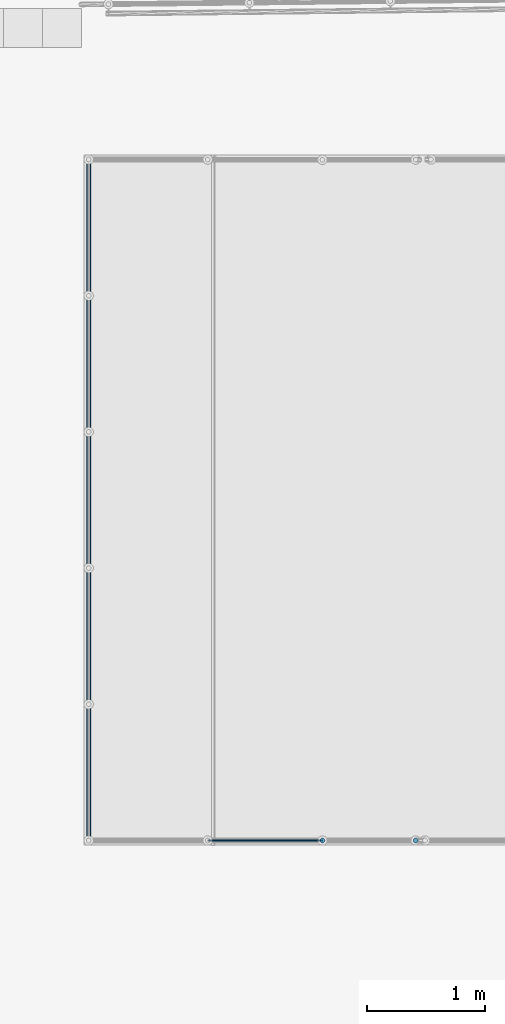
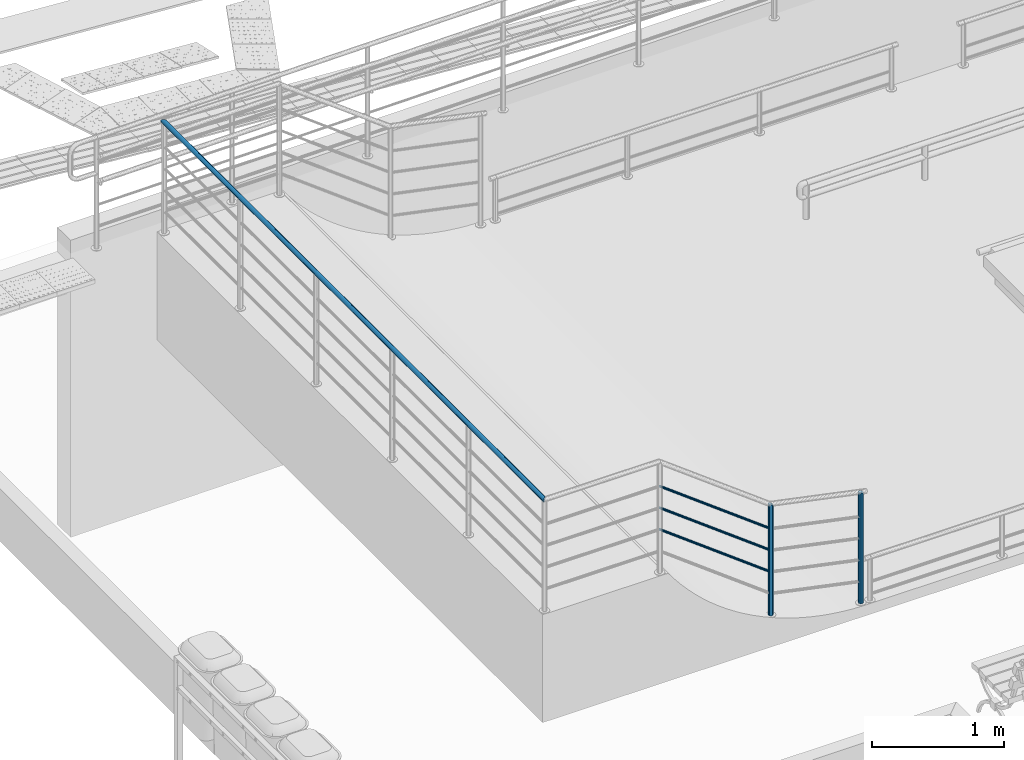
# One storey, part 29 of 237: 6 building element parts, 1 element without a shape of its own.
"""IFC2X3 building model written with IfcOpenShell, lengths in millimetres."""

from ifc_helpers import new_model, entity, si_unit, converted_unit, derived_unit, money_unit, direction, frame, origin_with_axes, place, context, subcontext, project, spatial, faceted_brep, material, type_object, element, aggregate, save


model = new_model("IFC2X3")

# Units and contexts
model_context = context("Model", 3, precision=0.01, world=origin_with_axes(), true_north=direction((0.0, 1.0)))
body_context = subcontext(model_context, "Body", "Model", "MODEL_VIEW")
ifc_project = project(units=[si_unit("LENGTHUNIT", "METRE", prefix="MILLI"), si_unit("AREAUNIT", "SQUARE_METRE"), si_unit("VOLUMEUNIT", "CUBIC_METRE"), converted_unit("PLANEANGLEUNIT", "DEGREE", entity("IfcPlaneAngleMeasure", 0.0174532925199), si_unit("PLANEANGLEUNIT", "RADIAN"), dimensions=[0, 0, 0, 0, 0, 0, 0]), money_unit("USD"), converted_unit("TIMEUNIT", "Year", entity("IfcTimeMeasure", 31556926.0), si_unit("TIMEUNIT", "SECOND"), dimensions=[0, 0, 1, 0, 0, 0, 0]), si_unit("MASSUNIT", "GRAM", prefix="KILO"), si_unit("THERMODYNAMICTEMPERATUREUNIT", "DEGREE_CELSIUS"), si_unit("LUMINOUSINTENSITYUNIT", "LUMEN"), si_unit("ENERGYUNIT", "JOULE", prefix="MEGA"), derived_unit("THERMALCONDUCTANCEUNIT", [(si_unit("POWERUNIT", "WATT"), 1), (si_unit("LENGTHUNIT", "METRE"), -1), (si_unit("THERMODYNAMICTEMPERATUREUNIT", "KELVIN"), -1)]), derived_unit("SPECIFICHEATCAPACITYUNIT", [(si_unit("ENERGYUNIT", "JOULE"), 1), (si_unit("MASSUNIT", "GRAM", prefix="KILO"), -1), (si_unit("THERMODYNAMICTEMPERATUREUNIT", "KELVIN"), -1)]), derived_unit("MASSDENSITYUNIT", [(si_unit("MASSUNIT", "GRAM", prefix="KILO"), 1), (si_unit("VOLUMEUNIT", "CUBIC_METRE"), -1)])], contexts=[model_context])

# Site, building, storey
site_placement = place(None, origin_with_axes())
site = spatial("IfcSite", under=ifc_project, at=site_placement, Name="Local", CompositionType="ELEMENT")
building_placement = place(site_placement, origin_with_axes())
building = spatial("IfcBuilding", under=site, at=building_placement, Name="Construção", CompositionType="ELEMENT")
storey_placement = place(building_placement, origin_with_axes())
storey = spatial("IfcBuildingStorey", under=building, at=storey_placement, Name="Pavimento Térreo", CompositionType="ELEMENT", Elevation=0.0)

# Railing, building element parts
railing_type = type_object("IfcRailingType", Name="Tipo de Guarda-Corpo", PredefinedType="NOTDEFINED")
railing_placement = place(storey_placement, frame((53912.4440926, 33356.4497128, -1263.04952679), z_axis=(0.0, 0.0, 1.0), x_axis=(1.0, 0.0, 0.0)))
railing = element("IfcRailing", 1, at=railing_placement, inside=storey, type_object=railing_type, Name="Guarda-Corpo - 001", PredefinedType="NOTDEFINED")
ifc_material = material(Name="Aço - Inoxidável")
building_element_part_1_placement = place(railing_placement, origin_with_axes())
building_element_part_1 = element("IfcBuildingElementPart", 2, at=building_element_part_1_placement, material=ifc_material, Name="Aço - Inoxidável", context=body_context, shape_type="Brep", body=[
    faceted_brep([(-833.144401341, -5291.20961394, 177.183005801), (-829.671437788, -5291.51345888, 177.183005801), (-829.671437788, -5291.51345888, 1202.1830058), (-833.144401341, -5291.20961394, 1203.75733098), (-826.198474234, -5291.20961394, 177.183005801), (-836.511840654, -5290.30731129, 177.183005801), (-839.671437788, -5288.83396695, 177.183005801), (-842.527189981, -5286.83434774, 177.183005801), (-844.99232665, -5284.36921107, 177.183005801), (-846.991945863, -5281.51345888, 177.183005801), (-848.465290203, -5278.35386174, 177.183005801), (-849.367592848, -5274.98642243, 177.183005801), (-849.671437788, -5271.51345888, 177.183005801), (-849.367592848, -5268.04049532, 177.183005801), (-848.465290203, -5264.67305601, 177.183005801), (-846.991945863, -5261.51345888, 177.183005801), (-844.99232665, -5258.65770668, 177.183005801), (-842.527189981, -5256.19257001, 177.183005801), (-839.671437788, -5254.1929508, 177.183005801), (-836.511840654, -5252.71960646, 177.183005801), (-833.144401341, -5251.81730382, 177.183005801), (-829.671437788, -5251.51345888, 177.183005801), (-826.198474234, -5251.81730382, 177.183005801), (-822.831034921, -5252.71960646, 177.183005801), (-819.671437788, -5254.1929508, 177.183005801), (-816.815685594, -5256.19257001, 177.183005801), (-814.350548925, -5258.65770668, 177.183005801), (-812.350929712, -5261.51345888, 177.183005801), (-810.877585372, -5264.67305601, 177.183005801), (-809.975282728, -5268.04049532, 177.183005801), (-809.671437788, -5271.51345888, 177.183005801), (-809.975282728, -5274.98642243, 177.183005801), (-810.877585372, -5278.35386174, 177.183005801), (-812.350929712, -5281.51345888, 177.183005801), (-814.350548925, -5284.36921107, 177.183005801), (-816.815685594, -5286.83434774, 177.183005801), (-819.671437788, -5288.83396695, 177.183005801), (-822.831034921, -5290.30731129, 177.183005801), (-826.198474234, -5291.20961394, 1200.60868062), (-849.367592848, -5268.04049532, 1211.11144758), (-849.671437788, -5271.51345888, 1211.24918319), (-849.367592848, -5274.98642243, 1211.11144758), (-848.465290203, -5278.35386174, 1210.70242579), (-846.991945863, -5281.51345888, 1210.03454573), (-844.99232665, -5284.36921107, 1209.12810061), (-842.527189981, -5286.83434774, 1208.01063229), (-839.671437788, -5288.83396695, 1206.71609449), (-836.511840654, -5290.30731129, 1205.28382109), (-822.831034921, -5290.30731129, 1199.08219051), (-819.671437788, -5288.83396695, 1197.64991711), (-816.815685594, -5286.83434774, 1196.35537931), (-814.350548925, -5284.36921107, 1195.23791099), (-812.350929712, -5281.51345888, 1194.33146587), (-810.877585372, -5278.35386174, 1193.66358581), (-809.975282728, -5274.98642243, 1193.25456402), (-809.671437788, -5271.51345888, 1193.11682842), (-809.975282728, -5268.04049532, 1193.25456402), (-810.877585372, -5264.67305601, 1193.66358581), (-812.350929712, -5261.51345888, 1194.33146587), (-814.350548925, -5258.65770668, 1195.23791099), (-816.815685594, -5256.19257001, 1196.35537931), (-819.671437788, -5254.1929508, 1197.64991711), (-822.831034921, -5252.71960646, 1199.08219051), (-826.198474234, -5251.81730382, 1200.60868062), (-829.671437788, -5251.51345888, 1202.1830058), (-833.144401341, -5251.81730382, 1203.75733098), (-836.511840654, -5252.71960646, 1205.28382109), (-839.671437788, -5254.1929508, 1206.71609449), (-842.527189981, -5256.19257001, 1208.01063229), (-844.99232665, -5258.65770668, 1209.12810061), (-846.991945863, -5261.51345888, 1210.03454573), (-848.465290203, -5264.67305601, 1210.70242579)], [[[0, 1, 2, 3]], [[4, 1, 0, 5, 6, 7, 8, 9, 10, 11, 12, 13, 14, 15, 16, 17, 18, 19, 20, 21, 22, 23, 24, 25, 26, 27, 28, 29, 30, 31, 32, 33, 34, 35, 36, 37]], [[1, 4, 38, 2]], [[39, 40, 41, 42, 43, 44, 45, 46, 47, 3, 2, 38, 48, 49, 50, 51, 52, 53, 54, 55, 56, 57, 58, 59, 60, 61, 62, 63, 64, 65, 66, 67, 68, 69, 70, 71]], [[5, 0, 3, 47]], [[6, 5, 47, 46]], [[7, 6, 46, 45]], [[8, 7, 45, 44]], [[9, 8, 44, 43]], [[10, 9, 43, 42]], [[11, 10, 42, 41]], [[12, 11, 41, 40]], [[13, 12, 40, 39]], [[14, 13, 39, 71]], [[15, 14, 71, 70]], [[16, 15, 70, 69]], [[17, 16, 69, 68]], [[18, 17, 68, 67]], [[19, 18, 67, 66]], [[20, 19, 66, 65]], [[21, 20, 65, 64]], [[22, 21, 64, 63]], [[23, 22, 63, 62]], [[24, 23, 62, 61]], [[25, 24, 61, 60]], [[26, 25, 60, 59]], [[27, 26, 59, 58]], [[28, 27, 58, 57]], [[29, 28, 57, 56]], [[30, 29, 56, 55]], [[31, 30, 55, 54]], [[32, 31, 54, 53]], [[33, 32, 53, 52]], [[34, 33, 52, 51]], [[35, 34, 51, 50]], [[36, 35, 50, 49]], [[37, 36, 49, 48]], [[4, 37, 48, 38]]]),
])
building_element_part_2_placement = place(railing_placement, origin_with_axes())
building_element_part_2 = element("IfcBuildingElementPart", 3, at=building_element_part_2_placement, material=ifc_material, Name="Aço - Inoxidável", context=body_context, shape_type="Brep", body=[
    faceted_brep([(-43.4729635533, -5291.20961394, 13.301262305), (-40.0, -5291.51345888, 13.301262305), (-40.0, -5291.51345888, 1038.3012623), (-43.4729635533, -5291.20961394, 1039.02201184), (-36.5270364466, -5291.20961394, 13.301262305), (-46.8404028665, -5290.30731129, 13.301262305), (-50.0, -5288.83396695, 13.301262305), (-52.8557521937, -5286.83434774, 13.301262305), (-55.3208888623, -5284.36921107, 13.301262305), (-57.3205080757, -5281.51345888, 13.301262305), (-58.7938524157, -5278.35386174, 13.301262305), (-59.6961550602, -5274.98642243, 13.301262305), (-60.0, -5271.51345888, 13.301262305), (-59.6961550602, -5268.04049532, 13.301262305), (-58.7938524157, -5264.67305601, 13.301262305), (-57.3205080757, -5261.51345888, 13.301262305), (-55.3208888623, -5258.65770668, 13.301262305), (-52.8557521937, -5256.19257001, 13.301262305), (-50.0, -5254.1929508, 13.301262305), (-46.8404028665, -5252.71960646, 13.301262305), (-43.4729635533, -5251.81730382, 13.301262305), (-40.0, -5251.51345888, 13.301262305), (-36.5270364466, -5251.81730382, 13.301262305), (-33.1595971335, -5252.71960646, 13.301262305), (-30.0, -5254.1929508, 13.301262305), (-27.1442478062, -5256.19257001, 13.301262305), (-24.6791111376, -5258.65770668, 13.301262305), (-22.6794919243, -5261.51345888, 13.301262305), (-21.2061475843, -5264.67305601, 13.301262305), (-20.3038449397, -5268.04049532, 13.301262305), (-20.0, -5271.51345888, 13.301262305), (-20.3038449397, -5274.98642243, 13.301262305), (-21.2061475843, -5278.35386174, 13.301262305), (-22.6794919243, -5281.51345888, 13.301262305), (-24.6791111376, -5284.36921107, 13.301262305), (-27.1442478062, -5286.83434774, 13.301262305), (-30.0, -5288.83396695, 13.301262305), (-33.1595971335, -5290.30731129, 13.301262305), (-36.5270364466, -5291.20961394, 1037.58051277), (-59.6961550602, -5268.04049532, 1042.38883604), (-60.0, -5271.51345888, 1042.45189346), (-59.6961550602, -5274.98642243, 1042.38883604), (-58.7938524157, -5278.35386174, 1042.20157977), (-57.3205080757, -5281.51345888, 1041.89581432), (-55.3208888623, -5284.36921107, 1041.48083023), (-52.8557521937, -5286.83434774, 1040.96923658), (-50.0, -5288.83396695, 1040.37657788), (-46.8404028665, -5290.30731129, 1039.72086177), (-33.1595971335, -5290.30731129, 1036.88166284), (-30.0, -5288.83396695, 1036.22594673), (-27.1442478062, -5286.83434774, 1035.63328803), (-24.6791111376, -5284.36921107, 1035.12169438), (-22.6794919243, -5281.51345888, 1034.70671029), (-21.2061475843, -5278.35386174, 1034.40094484), (-20.3038449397, -5274.98642243, 1034.21368857), (-20.0, -5271.51345888, 1034.15063115), (-20.3038449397, -5268.04049532, 1034.21368857), (-21.2061475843, -5264.67305601, 1034.40094484), (-22.6794919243, -5261.51345888, 1034.70671029), (-24.6791111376, -5258.65770668, 1035.12169438), (-27.1442478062, -5256.19257001, 1035.63328803), (-30.0, -5254.1929508, 1036.22594673), (-33.1595971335, -5252.71960646, 1036.88166284), (-36.5270364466, -5251.81730382, 1037.58051277), (-40.0, -5251.51345888, 1038.3012623), (-43.4729635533, -5251.81730382, 1039.02201184), (-46.8404028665, -5252.71960646, 1039.72086177), (-50.0, -5254.1929508, 1040.37657788), (-52.8557521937, -5256.19257001, 1040.96923658), (-55.3208888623, -5258.65770668, 1041.48083023), (-57.3205080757, -5261.51345888, 1041.89581432), (-58.7938524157, -5264.67305601, 1042.20157977)], [[[0, 1, 2, 3]], [[4, 1, 0, 5, 6, 7, 8, 9, 10, 11, 12, 13, 14, 15, 16, 17, 18, 19, 20, 21, 22, 23, 24, 25, 26, 27, 28, 29, 30, 31, 32, 33, 34, 35, 36, 37]], [[1, 4, 38, 2]], [[39, 40, 41, 42, 43, 44, 45, 46, 47, 3, 2, 38, 48, 49, 50, 51, 52, 53, 54, 55, 56, 57, 58, 59, 60, 61, 62, 63, 64, 65, 66, 67, 68, 69, 70, 71]], [[5, 0, 3, 47]], [[6, 5, 47, 46]], [[7, 6, 46, 45]], [[8, 7, 45, 44]], [[9, 8, 44, 43]], [[10, 9, 43, 42]], [[11, 10, 42, 41]], [[12, 11, 41, 40]], [[13, 12, 40, 39]], [[14, 13, 39, 71]], [[15, 14, 71, 70]], [[16, 15, 70, 69]], [[17, 16, 69, 68]], [[18, 17, 68, 67]], [[19, 18, 67, 66]], [[20, 19, 66, 65]], [[21, 20, 65, 64]], [[22, 21, 64, 63]], [[23, 22, 63, 62]], [[24, 23, 62, 61]], [[25, 24, 61, 60]], [[26, 25, 60, 59]], [[27, 26, 59, 58]], [[28, 27, 58, 57]], [[29, 28, 57, 56]], [[30, 29, 56, 55]], [[31, 30, 55, 54]], [[32, 31, 54, 53]], [[33, 32, 53, 52]], [[34, 33, 52, 51]], [[35, 34, 51, 50]], [[36, 35, 50, 49]], [[37, 36, 49, 48]], [[4, 37, 48, 38]]]),
])
building_element_part_3_placement = place(railing_placement, origin_with_axes())
building_element_part_3 = element("IfcBuildingElementPart", 4, at=building_element_part_3_placement, material=ifc_material, Name="Aço - Inoxidável", context=body_context, shape_type="Brep", body=[
    faceted_brep([(-2790.0, 478.44280885, 1935.94133024), (-2790.30384494, 478.746875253, 1939.41429379), (-2790.30384494, -5251.81730382, 1939.41429379), (-2790.0, -5251.51345888, 1935.94133024), (-2790.30384494, 478.746875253, 1932.46836668), (-2791.20614758, 479.64983556, 1929.10092737), (-2792.67949192, 481.124253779, 1925.94133024), (-2794.67911114, 483.125330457, 1923.08557804), (-2797.14424781, 485.592263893, 1920.62044137), (-2800.0, 488.450097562, 1918.62082216), (-2803.15959713, 491.611997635, 1917.14747782), (-2806.52703645, 494.981891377, 1916.24517518), (-2810.0, 498.457386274, 1915.94133024), (-2813.47296355, 501.932881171, 1916.24517518), (-2816.84040287, 505.302774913, 1917.14747782), (-2820.0, 508.464674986, 1918.62082216), (-2822.85575219, 511.322508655, 1920.62044137), (-2825.32088886, 513.789442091, 1923.08557804), (-2827.32050808, 515.79051877, 1925.94133024), (-2828.79385242, 517.264936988, 1929.10092737), (-2829.69615506, 518.167897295, 1932.46836668), (-2830.0, 518.471963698, 1935.94133024), (-2829.69615506, 518.167897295, 1939.41429379), (-2828.79385242, 517.264936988, 1942.7817331), (-2827.32050808, 515.79051877, 1945.94133024), (-2825.32088886, 513.789442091, 1948.79708243), (-2822.85575219, 511.322508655, 1951.2622191), (-2820.0, 508.464674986, 1953.26183831), (-2816.84040287, 505.302774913, 1954.73518265), (-2813.47296355, 501.932881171, 1955.6374853), (-2810.0, 498.457386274, 1955.94133024), (-2806.52703645, 494.981891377, 1955.6374853), (-2803.15959713, 491.611997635, 1954.73518265), (-2800.0, 488.450097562, 1953.26183831), (-2797.14424781, 485.592263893, 1951.2622191), (-2794.67911114, 483.125330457, 1948.79708243), (-2792.67949192, 481.124253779, 1945.94133024), (-2791.20614758, 479.64983556, 1942.7817331), (-2791.20614758, -5252.71960646, 1942.7817331), (-2792.67949192, -5254.1929508, 1945.94133024), (-2794.67911114, -5256.19257001, 1948.79708243), (-2797.14424781, -5258.65770668, 1951.2622191), (-2800.0, -5261.51345888, 1953.26183831), (-2803.15959713, -5264.67305601, 1954.73518265), (-2806.52703645, -5268.04049532, 1955.6374853), (-2810.0, -5271.51345888, 1955.94133024), (-2813.47296355, -5274.98642243, 1955.6374853), (-2816.84040287, -5278.35386174, 1954.73518265), (-2820.0, -5281.51345888, 1953.26183831), (-2822.85575219, -5284.36921107, 1951.2622191), (-2825.32088886, -5286.83434774, 1948.79708243), (-2827.32050808, -5288.83396695, 1945.94133024), (-2828.79385242, -5290.30731129, 1942.7817331), (-2829.69615506, -5291.20961394, 1939.41429379), (-2830.0, -5291.51345888, 1935.94133024), (-2829.69615506, -5291.20961394, 1932.46836668), (-2828.79385242, -5290.30731129, 1929.10092737), (-2827.32050808, -5288.83396695, 1925.94133024), (-2825.32088886, -5286.83434774, 1923.08557804), (-2822.85575219, -5284.36921107, 1920.62044137), (-2820.0, -5281.51345888, 1918.62082216), (-2816.84040287, -5278.35386174, 1917.14747782), (-2813.47296355, -5274.98642243, 1916.24517518), (-2810.0, -5271.51345888, 1915.94133024), (-2806.52703645, -5268.04049532, 1916.24517518), (-2803.15959713, -5264.67305601, 1917.14747782), (-2800.0, -5261.51345888, 1918.62082216), (-2797.14424781, -5258.65770668, 1920.62044137), (-2794.67911114, -5256.19257001, 1923.08557804), (-2792.67949192, -5254.1929508, 1925.94133024), (-2791.20614758, -5252.71960646, 1929.10092737), (-2790.30384494, -5251.81730382, 1932.46836668)], [[[0, 1, 2, 3]], [[0, 4, 5, 6, 7, 8, 9, 10, 11, 12, 13, 14, 15, 16, 17, 18, 19, 20, 21, 22, 23, 24, 25, 26, 27, 28, 29, 30, 31, 32, 33, 34, 35, 36, 37, 1]], [[1, 37, 38, 2]], [[3, 2, 38, 39, 40, 41, 42, 43, 44, 45, 46, 47, 48, 49, 50, 51, 52, 53, 54, 55, 56, 57, 58, 59, 60, 61, 62, 63, 64, 65, 66, 67, 68, 69, 70, 71]], [[4, 0, 3, 71]], [[5, 4, 71, 70]], [[6, 5, 70, 69]], [[7, 6, 69, 68]], [[8, 7, 68, 67]], [[9, 8, 67, 66]], [[10, 9, 66, 65]], [[11, 10, 65, 64]], [[12, 11, 64, 63]], [[13, 12, 63, 62]], [[14, 13, 62, 61]], [[15, 14, 61, 60]], [[16, 15, 60, 59]], [[17, 16, 59, 58]], [[18, 17, 58, 57]], [[19, 18, 57, 56]], [[20, 19, 56, 55]], [[21, 20, 55, 54]], [[22, 21, 54, 53]], [[23, 22, 53, 52]], [[24, 23, 52, 51]], [[25, 24, 51, 50]], [[26, 25, 50, 49]], [[27, 26, 49, 48]], [[28, 27, 48, 47]], [[29, 28, 47, 46]], [[30, 29, 46, 45]], [[31, 30, 45, 44]], [[32, 31, 44, 43]], [[33, 32, 43, 42]], [[34, 33, 42, 41]], [[35, 34, 41, 40]], [[36, 35, 40, 39]], [[37, 36, 39, 38]]]),
])
building_element_part_4_placement = place(railing_placement, origin_with_axes())
building_element_part_4 = element("IfcBuildingElementPart", 5, at=building_element_part_4_placement, material=ifc_material, Name="Aço - Inoxidável", context=body_context, shape_type="Brep", body=[
    faceted_brep([(-1801.77109729, -5261.51345888, 1305.94133024), (-1801.18930067, -5261.66538135, 1307.67781201), (-828.936630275, -5261.66538135, 573.803992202), (-829.671437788, -5261.51345888, 572.183005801), (-1802.35289391, -5261.66538135, 1304.20484846), (-1802.91701294, -5262.11653267, 1302.5211288), (-1803.4463139, -5262.85320484, 1300.94133024), (-1803.92471425, -5263.85301445, 1299.51345414), (-1804.33767804, -5265.08558278, 1298.28088581), (-1804.67265757, -5266.51345888, 1297.2810762), (-1804.91947466, -5268.09325744, 1296.54440403), (-1805.0706299, -5269.7769771, 1296.09325271), (-1805.12153051, -5271.51345888, 1295.94133024), (-1805.0706299, -5273.24994065, 1296.09325271), (-1804.91947466, -5274.93366031, 1296.54440403), (-1804.67265757, -5276.51345888, 1297.2810762), (-1804.33767804, -5277.94133497, 1298.28088581), (-1803.92471425, -5279.17390331, 1299.51345414), (-1803.4463139, -5280.17371292, 1300.94133024), (-1802.91701294, -5280.91038509, 1302.5211288), (-1802.35289391, -5281.36153641, 1304.20484846), (-1801.77109729, -5281.51345888, 1305.94133024), (-1801.18930067, -5281.36153641, 1307.67781201), (-1800.62518164, -5280.91038509, 1309.36153167), (-1800.09588068, -5280.17371292, 1310.94133024), (-1799.61748033, -5279.17390331, 1312.36920633), (-1799.20451654, -5277.94133497, 1313.60177467), (-1798.86953701, -5276.51345888, 1314.60158427), (-1798.62271992, -5274.93366031, 1315.33825644), (-1798.47156468, -5273.24994065, 1315.78940777), (-1798.42066408, -5271.51345888, 1315.94133024), (-1798.47156468, -5269.7769771, 1315.78940777), (-1798.62271992, -5268.09325744, 1315.33825644), (-1798.86953701, -5266.51345888, 1314.60158427), (-1799.20451654, -5265.08558278, 1313.60177467), (-1799.61748033, -5263.85301445, 1312.36920633), (-1800.09588068, -5262.85320484, 1310.94133024), (-1800.62518164, -5262.11653267, 1309.36153167), (-828.224149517, -5262.11653267, 575.375725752), (-827.55564388, -5262.85320484, 576.850450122), (-826.951425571, -5263.85301445, 578.183356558), (-826.429853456, -5265.08558278, 579.333945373), (-826.006775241, -5266.51345888, 580.267256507), (-825.695045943, -5268.09325744, 580.954931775), (-825.5041373, -5269.7769771, 581.37607651), (-825.439849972, -5271.51345888, 581.517894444), (-825.5041373, -5273.24994065, 581.37607651), (-825.695045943, -5274.93366031, 580.954931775), (-826.006775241, -5276.51345888, 580.267256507), (-826.429853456, -5277.94133497, 579.333945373), (-826.951425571, -5279.17390331, 578.183356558), (-827.55564388, -5280.17371292, 576.850450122), (-828.224149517, -5280.91038509, 575.375725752), (-828.936630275, -5281.36153641, 573.803992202), (-829.671437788, -5281.51345888, 572.183005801), (-830.406245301, -5281.36153641, 570.562019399), (-831.118726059, -5280.91038509, 568.990285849), (-831.787231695, -5280.17371292, 567.515561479), (-832.391450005, -5279.17390331, 566.182655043), (-832.913022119, -5277.94133497, 565.032066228), (-833.336100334, -5276.51345888, 564.098755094), (-833.647829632, -5274.93366031, 563.411079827), (-833.838738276, -5273.24994065, 562.989935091), (-833.903025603, -5271.51345888, 562.848117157), (-833.838738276, -5269.7769771, 562.989935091), (-833.647829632, -5268.09325744, 563.411079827), (-833.336100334, -5266.51345888, 564.098755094), (-832.913022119, -5265.08558278, 565.032066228), (-832.391450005, -5263.85301445, 566.182655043), (-831.787231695, -5262.85320484, 567.515561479), (-831.118726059, -5262.11653267, 568.990285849), (-830.406245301, -5261.66538135, 570.562019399)], [[[0, 1, 2, 3]], [[0, 4, 5, 6, 7, 8, 9, 10, 11, 12, 13, 14, 15, 16, 17, 18, 19, 20, 21, 22, 23, 24, 25, 26, 27, 28, 29, 30, 31, 32, 33, 34, 35, 36, 37, 1]], [[1, 37, 38, 2]], [[3, 2, 38, 39, 40, 41, 42, 43, 44, 45, 46, 47, 48, 49, 50, 51, 52, 53, 54, 55, 56, 57, 58, 59, 60, 61, 62, 63, 64, 65, 66, 67, 68, 69, 70, 71]], [[4, 0, 3, 71]], [[5, 4, 71, 70]], [[6, 5, 70, 69]], [[7, 6, 69, 68]], [[8, 7, 68, 67]], [[9, 8, 67, 66]], [[10, 9, 66, 65]], [[11, 10, 65, 64]], [[12, 11, 64, 63]], [[13, 12, 63, 62]], [[14, 13, 62, 61]], [[15, 14, 61, 60]], [[16, 15, 60, 59]], [[17, 16, 59, 58]], [[18, 17, 58, 57]], [[19, 18, 57, 56]], [[20, 19, 56, 55]], [[21, 20, 55, 54]], [[22, 21, 54, 53]], [[23, 22, 53, 52]], [[24, 23, 52, 51]], [[25, 24, 51, 50]], [[26, 25, 50, 49]], [[27, 26, 49, 48]], [[28, 27, 48, 47]], [[29, 28, 47, 46]], [[30, 29, 46, 45]], [[31, 30, 45, 44]], [[32, 31, 44, 43]], [[33, 32, 43, 42]], [[34, 33, 42, 41]], [[35, 34, 41, 40]], [[36, 35, 40, 39]], [[37, 36, 39, 38]]]),
])
building_element_part_5_placement = place(railing_placement, origin_with_axes())
building_element_part_5 = element("IfcBuildingElementPart", 6, at=building_element_part_5_placement, material=ifc_material, Name="Aço - Inoxidável", context=body_context, shape_type="Brep", body=[
    faceted_brep([(-1801.77109729, -5261.51345888, 1505.94133024), (-1801.18930067, -5261.66538135, 1507.67781201), (-828.936630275, -5261.66538135, 773.803992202), (-829.671437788, -5261.51345888, 772.183005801), (-1802.35289391, -5261.66538135, 1504.20484846), (-1802.91701294, -5262.11653267, 1502.5211288), (-1803.4463139, -5262.85320484, 1500.94133024), (-1803.92471425, -5263.85301445, 1499.51345414), (-1804.33767804, -5265.08558278, 1498.28088581), (-1804.67265757, -5266.51345888, 1497.2810762), (-1804.91947466, -5268.09325744, 1496.54440403), (-1805.0706299, -5269.7769771, 1496.09325271), (-1805.12153051, -5271.51345888, 1495.94133024), (-1805.0706299, -5273.24994065, 1496.09325271), (-1804.91947466, -5274.93366031, 1496.54440403), (-1804.67265757, -5276.51345888, 1497.2810762), (-1804.33767804, -5277.94133497, 1498.28088581), (-1803.92471425, -5279.17390331, 1499.51345414), (-1803.4463139, -5280.17371292, 1500.94133024), (-1802.91701294, -5280.91038509, 1502.5211288), (-1802.35289391, -5281.36153641, 1504.20484846), (-1801.77109729, -5281.51345888, 1505.94133024), (-1801.18930067, -5281.36153641, 1507.67781201), (-1800.62518164, -5280.91038509, 1509.36153167), (-1800.09588068, -5280.17371292, 1510.94133024), (-1799.61748033, -5279.17390331, 1512.36920633), (-1799.20451654, -5277.94133497, 1513.60177467), (-1798.86953701, -5276.51345888, 1514.60158427), (-1798.62271992, -5274.93366031, 1515.33825644), (-1798.47156468, -5273.24994065, 1515.78940777), (-1798.42066408, -5271.51345888, 1515.94133024), (-1798.47156468, -5269.7769771, 1515.78940777), (-1798.62271992, -5268.09325744, 1515.33825644), (-1798.86953701, -5266.51345888, 1514.60158427), (-1799.20451654, -5265.08558278, 1513.60177467), (-1799.61748033, -5263.85301445, 1512.36920633), (-1800.09588068, -5262.85320484, 1510.94133024), (-1800.62518164, -5262.11653267, 1509.36153167), (-828.224149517, -5262.11653267, 775.375725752), (-827.55564388, -5262.85320484, 776.850450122), (-826.951425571, -5263.85301445, 778.183356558), (-826.429853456, -5265.08558278, 779.333945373), (-826.006775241, -5266.51345888, 780.267256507), (-825.695045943, -5268.09325744, 780.954931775), (-825.5041373, -5269.7769771, 781.37607651), (-825.439849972, -5271.51345888, 781.517894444), (-825.5041373, -5273.24994065, 781.37607651), (-825.695045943, -5274.93366031, 780.954931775), (-826.006775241, -5276.51345888, 780.267256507), (-826.429853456, -5277.94133497, 779.333945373), (-826.951425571, -5279.17390331, 778.183356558), (-827.55564388, -5280.17371292, 776.850450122), (-828.224149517, -5280.91038509, 775.375725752), (-828.936630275, -5281.36153641, 773.803992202), (-829.671437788, -5281.51345888, 772.183005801), (-830.406245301, -5281.36153641, 770.562019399), (-831.118726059, -5280.91038509, 768.990285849), (-831.787231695, -5280.17371292, 767.515561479), (-832.391450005, -5279.17390331, 766.182655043), (-832.913022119, -5277.94133497, 765.032066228), (-833.336100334, -5276.51345888, 764.098755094), (-833.647829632, -5274.93366031, 763.411079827), (-833.838738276, -5273.24994065, 762.989935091), (-833.903025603, -5271.51345888, 762.848117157), (-833.838738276, -5269.7769771, 762.989935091), (-833.647829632, -5268.09325744, 763.411079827), (-833.336100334, -5266.51345888, 764.098755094), (-832.913022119, -5265.08558278, 765.032066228), (-832.391450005, -5263.85301445, 766.182655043), (-831.787231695, -5262.85320484, 767.515561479), (-831.118726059, -5262.11653267, 768.990285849), (-830.406245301, -5261.66538135, 770.562019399)], [[[0, 1, 2, 3]], [[0, 4, 5, 6, 7, 8, 9, 10, 11, 12, 13, 14, 15, 16, 17, 18, 19, 20, 21, 22, 23, 24, 25, 26, 27, 28, 29, 30, 31, 32, 33, 34, 35, 36, 37, 1]], [[1, 37, 38, 2]], [[3, 2, 38, 39, 40, 41, 42, 43, 44, 45, 46, 47, 48, 49, 50, 51, 52, 53, 54, 55, 56, 57, 58, 59, 60, 61, 62, 63, 64, 65, 66, 67, 68, 69, 70, 71]], [[4, 0, 3, 71]], [[5, 4, 71, 70]], [[6, 5, 70, 69]], [[7, 6, 69, 68]], [[8, 7, 68, 67]], [[9, 8, 67, 66]], [[10, 9, 66, 65]], [[11, 10, 65, 64]], [[12, 11, 64, 63]], [[13, 12, 63, 62]], [[14, 13, 62, 61]], [[15, 14, 61, 60]], [[16, 15, 60, 59]], [[17, 16, 59, 58]], [[18, 17, 58, 57]], [[19, 18, 57, 56]], [[20, 19, 56, 55]], [[21, 20, 55, 54]], [[22, 21, 54, 53]], [[23, 22, 53, 52]], [[24, 23, 52, 51]], [[25, 24, 51, 50]], [[26, 25, 50, 49]], [[27, 26, 49, 48]], [[28, 27, 48, 47]], [[29, 28, 47, 46]], [[30, 29, 46, 45]], [[31, 30, 45, 44]], [[32, 31, 44, 43]], [[33, 32, 43, 42]], [[34, 33, 42, 41]], [[35, 34, 41, 40]], [[36, 35, 40, 39]], [[37, 36, 39, 38]]]),
])
building_element_part_6_placement = place(railing_placement, origin_with_axes())
building_element_part_6 = element("IfcBuildingElementPart", 7, at=building_element_part_6_placement, material=ifc_material, Name="Aço - Inoxidável", context=body_context, shape_type="Brep", body=[
    faceted_brep([(-1801.77109729, -5261.51345888, 1705.94133024), (-1801.18930067, -5261.66538135, 1707.67781201), (-828.936630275, -5261.66538135, 973.803992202), (-829.671437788, -5261.51345888, 972.183005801), (-1802.35289391, -5261.66538135, 1704.20484846), (-1802.91701294, -5262.11653267, 1702.5211288), (-1803.4463139, -5262.85320484, 1700.94133024), (-1803.92471425, -5263.85301445, 1699.51345414), (-1804.33767804, -5265.08558278, 1698.28088581), (-1804.67265757, -5266.51345888, 1697.2810762), (-1804.91947466, -5268.09325744, 1696.54440403), (-1805.0706299, -5269.7769771, 1696.09325271), (-1805.12153051, -5271.51345888, 1695.94133024), (-1805.0706299, -5273.24994065, 1696.09325271), (-1804.91947466, -5274.93366031, 1696.54440403), (-1804.67265757, -5276.51345888, 1697.2810762), (-1804.33767804, -5277.94133497, 1698.28088581), (-1803.92471425, -5279.17390331, 1699.51345414), (-1803.4463139, -5280.17371292, 1700.94133024), (-1802.91701294, -5280.91038509, 1702.5211288), (-1802.35289391, -5281.36153641, 1704.20484846), (-1801.77109729, -5281.51345888, 1705.94133024), (-1801.18930067, -5281.36153641, 1707.67781201), (-1800.62518164, -5280.91038509, 1709.36153167), (-1800.09588068, -5280.17371292, 1710.94133024), (-1799.61748033, -5279.17390331, 1712.36920633), (-1799.20451654, -5277.94133497, 1713.60177467), (-1798.86953701, -5276.51345888, 1714.60158427), (-1798.62271992, -5274.93366031, 1715.33825644), (-1798.47156468, -5273.24994065, 1715.78940777), (-1798.42066408, -5271.51345888, 1715.94133024), (-1798.47156468, -5269.7769771, 1715.78940777), (-1798.62271992, -5268.09325744, 1715.33825644), (-1798.86953701, -5266.51345888, 1714.60158427), (-1799.20451654, -5265.08558278, 1713.60177467), (-1799.61748033, -5263.85301445, 1712.36920633), (-1800.09588068, -5262.85320484, 1710.94133024), (-1800.62518164, -5262.11653267, 1709.36153167), (-828.224149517, -5262.11653267, 975.375725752), (-827.55564388, -5262.85320484, 976.850450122), (-826.951425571, -5263.85301445, 978.183356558), (-826.429853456, -5265.08558278, 979.333945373), (-826.006775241, -5266.51345888, 980.267256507), (-825.695045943, -5268.09325744, 980.954931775), (-825.5041373, -5269.7769771, 981.37607651), (-825.439849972, -5271.51345888, 981.517894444), (-825.5041373, -5273.24994065, 981.37607651), (-825.695045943, -5274.93366031, 980.954931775), (-826.006775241, -5276.51345888, 980.267256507), (-826.429853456, -5277.94133497, 979.333945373), (-826.951425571, -5279.17390331, 978.183356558), (-827.55564388, -5280.17371292, 976.850450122), (-828.224149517, -5280.91038509, 975.375725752), (-828.936630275, -5281.36153641, 973.803992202), (-829.671437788, -5281.51345888, 972.183005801), (-830.406245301, -5281.36153641, 970.562019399), (-831.118726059, -5280.91038509, 968.990285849), (-831.787231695, -5280.17371292, 967.515561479), (-832.391450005, -5279.17390331, 966.182655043), (-832.913022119, -5277.94133497, 965.032066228), (-833.336100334, -5276.51345888, 964.098755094), (-833.647829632, -5274.93366031, 963.411079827), (-833.838738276, -5273.24994065, 962.989935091), (-833.903025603, -5271.51345888, 962.848117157), (-833.838738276, -5269.7769771, 962.989935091), (-833.647829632, -5268.09325744, 963.411079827), (-833.336100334, -5266.51345888, 964.098755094), (-832.913022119, -5265.08558278, 965.032066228), (-832.391450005, -5263.85301445, 966.182655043), (-831.787231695, -5262.85320484, 967.515561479), (-831.118726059, -5262.11653267, 968.990285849), (-830.406245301, -5261.66538135, 970.562019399)], [[[0, 1, 2, 3]], [[0, 4, 5, 6, 7, 8, 9, 10, 11, 12, 13, 14, 15, 16, 17, 18, 19, 20, 21, 22, 23, 24, 25, 26, 27, 28, 29, 30, 31, 32, 33, 34, 35, 36, 37, 1]], [[1, 37, 38, 2]], [[3, 2, 38, 39, 40, 41, 42, 43, 44, 45, 46, 47, 48, 49, 50, 51, 52, 53, 54, 55, 56, 57, 58, 59, 60, 61, 62, 63, 64, 65, 66, 67, 68, 69, 70, 71]], [[4, 0, 3, 71]], [[5, 4, 71, 70]], [[6, 5, 70, 69]], [[7, 6, 69, 68]], [[8, 7, 68, 67]], [[9, 8, 67, 66]], [[10, 9, 66, 65]], [[11, 10, 65, 64]], [[12, 11, 64, 63]], [[13, 12, 63, 62]], [[14, 13, 62, 61]], [[15, 14, 61, 60]], [[16, 15, 60, 59]], [[17, 16, 59, 58]], [[18, 17, 58, 57]], [[19, 18, 57, 56]], [[20, 19, 56, 55]], [[21, 20, 55, 54]], [[22, 21, 54, 53]], [[23, 22, 53, 52]], [[24, 23, 52, 51]], [[25, 24, 51, 50]], [[26, 25, 50, 49]], [[27, 26, 49, 48]], [[28, 27, 48, 47]], [[29, 28, 47, 46]], [[30, 29, 46, 45]], [[31, 30, 45, 44]], [[32, 31, 44, 43]], [[33, 32, 43, 42]], [[34, 33, 42, 41]], [[35, 34, 41, 40]], [[36, 35, 40, 39]], [[37, 36, 39, 38]]]),
])
aggregate(railing, [building_element_part_1, building_element_part_2, building_element_part_3, building_element_part_4, building_element_part_5, building_element_part_6])

save(model, "model.ifc")
